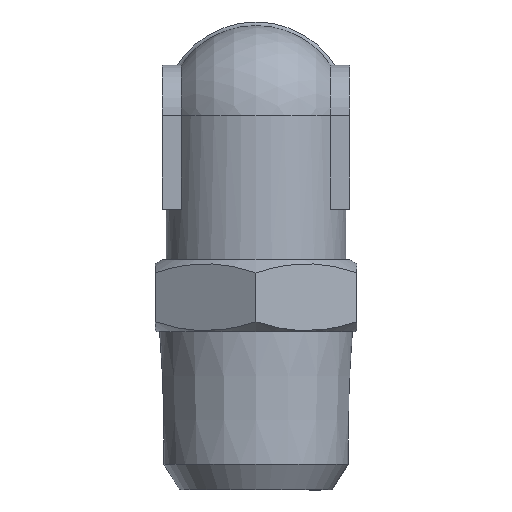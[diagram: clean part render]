
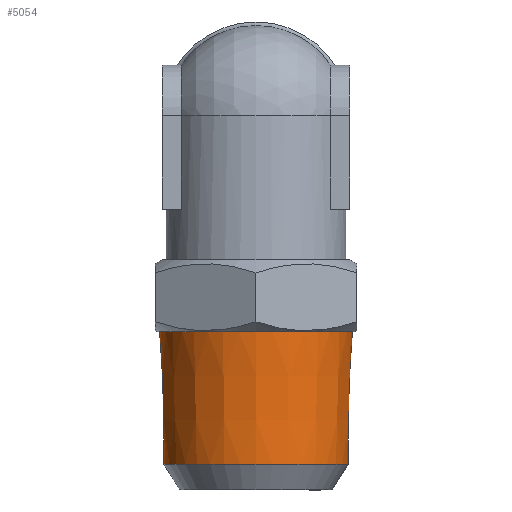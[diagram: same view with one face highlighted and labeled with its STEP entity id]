
A CAD part, left-side view. The second image highlights one B-rep face of the part: STEP entity #5054.
In plain terms, the highlighted conical face has half-angle 1.79 degrees and reference radius 6.694 mm.
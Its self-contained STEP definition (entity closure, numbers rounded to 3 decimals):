
#2133=CONICAL_SURFACE('',#4917,6.694,1.79);
#2781=ORIENTED_EDGE('',*,*,#3246,.F.);
#2782=ORIENTED_EDGE('',*,*,#3247,.T.);
#2902=CIRCLE('',#4918,6.694);
#2903=CIRCLE('',#4919,6.407);
#3047=VERTEX_POINT('',#4693);
#3048=VERTEX_POINT('',#4695);
#3246=EDGE_CURVE('',#3047,#3047,#2902,.T.);
#3247=EDGE_CURVE('',#3048,#3048,#2903,.T.);
#3400=EDGE_LOOP('',(#2781));
#3401=EDGE_LOOP('',(#2782));
#3554=FACE_BOUND('',#3400,.T.);
#3555=FACE_BOUND('',#3401,.T.);
#4044=DIRECTION('',(0.,1.,0.));
#4045=DIRECTION('',(0.,0.,-1.));
#4046=DIRECTION('',(0.,1.,0.));
#4047=DIRECTION('',(6.694,0.,0.));
#4048=DIRECTION('',(0.,1.,0.));
#4049=DIRECTION('',(0.,0.,6.407));
#4692=CARTESIAN_POINT('',(-9.087,12.3,0.));
#4693=CARTESIAN_POINT('',(-2.393,12.3,0.));
#4694=CARTESIAN_POINT('',(-9.087,12.3,0.));
#4695=CARTESIAN_POINT('',(-9.087,3.099,6.407));
#4696=CARTESIAN_POINT('',(-9.087,3.099,0.));
#4917=AXIS2_PLACEMENT_3D('',#4692,#4044,#4045);
#4918=AXIS2_PLACEMENT_3D('',#4694,#4046,#4047);
#4919=AXIS2_PLACEMENT_3D('',#4696,#4048,#4049);
#5054=ADVANCED_FACE('',(#3554,#3555),#2133,.T.);
